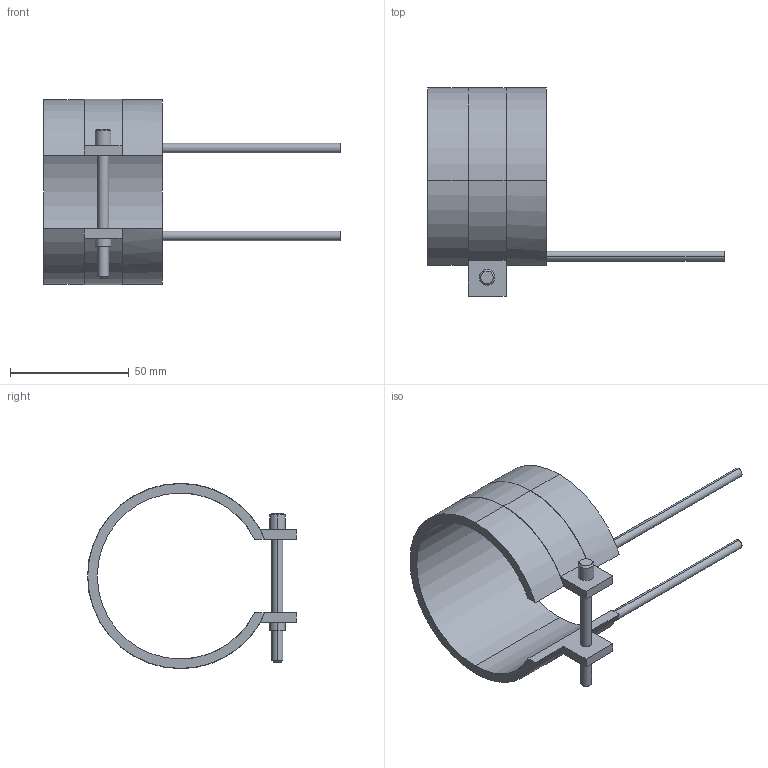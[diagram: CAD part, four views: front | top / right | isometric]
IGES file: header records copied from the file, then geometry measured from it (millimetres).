
Start section: START RECORD GO HERE.
Global section: file name: 14070050.igs; native system: DASSAULT SYSTEMES CATIA V5 R20 - www.3ds.com; preprocessor: CATIA Version 5 Release 20 ; author: Utente; organization: NB04-ASUS; date: 20210401.114547; units: millimetre
Bounding box: 125 x 88.1 x 78.2 mm (x, y, z)
Surface area: 25968.6 mm2 (no closed solid volume)
Topology: 0 solids, 0 shells, 45 faces, 232 edges, 232 vertices
Faces by surface type: revolution 28, plane 17
